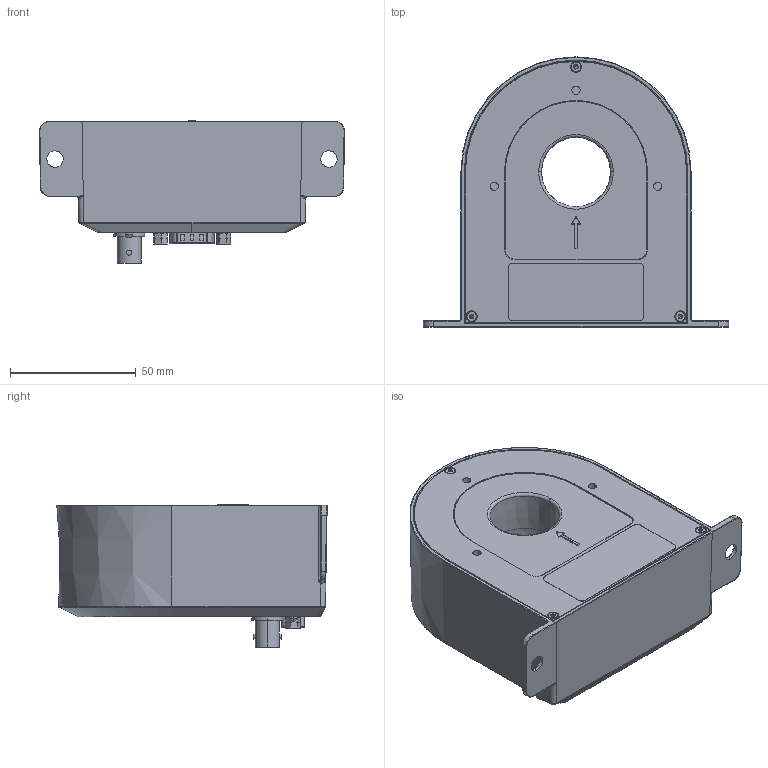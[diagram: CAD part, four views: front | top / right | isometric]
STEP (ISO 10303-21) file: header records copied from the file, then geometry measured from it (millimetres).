
FILE_DESCRIPTION (( 'STEP AP214' ), '1' );
FILE_NAME ('1212200002_DSx00UB.STEP', '2020-08-13T12:13:03', ( '' ), ( '' ), 'SwSTEP 2.0', 'SolidWorks 2019', '' );
FILE_SCHEMA (( 'AUTOMOTIVE_DESIGN' ));
Length unit declared in the file: millimetre
Products named in the file (1): 1212200002_DSx00UB
Bounding box: 121.42 x 107.55 x 56.6 mm (x, y, z)
Surface area: 46335.6 mm2 (no closed solid volume)
Topology: 0 solids, 17 shells, 478 faces, 3598 edges, 3082 vertices
Faces by surface type: cylinder 167, plane 100, cone 90, bspline 65, torus 52, sphere 4
Entity records: 44137 total; most frequent: CARTESIAN_POINT 13043, DIRECTION 4721, ORIENTED_EDGE 4574, EDGE_CURVE 3569, VERTEX_POINT 3081, VECTOR 2305, LINE 2305, AXIS2_PLACEMENT_3D 1208
